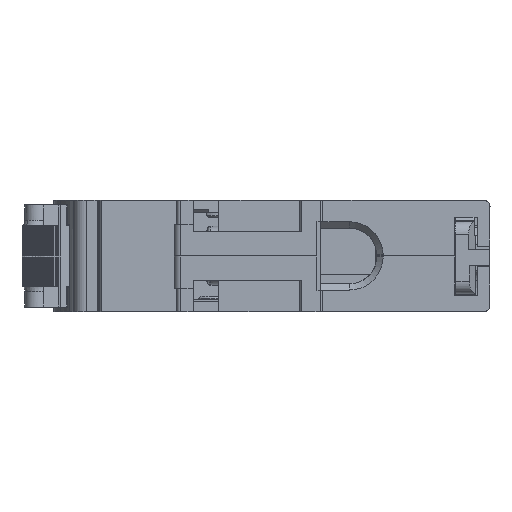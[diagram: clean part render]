
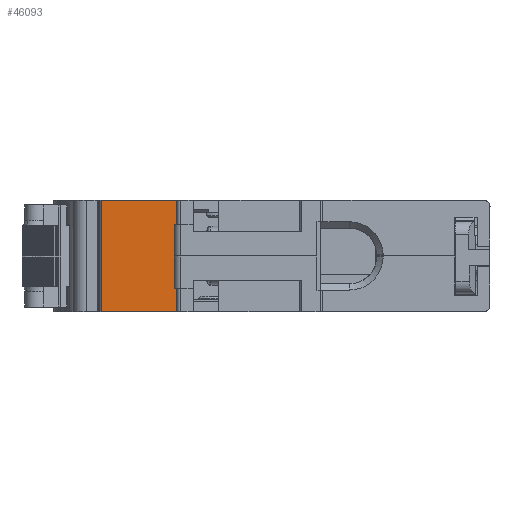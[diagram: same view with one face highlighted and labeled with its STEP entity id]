
A CAD part, left-side view. The second image highlights one B-rep face of the part: STEP entity #46093.
In plain terms, the highlighted planar face has unit normal (-1, 0, 0) as drawn and (1, 0, 0) by its records, which use the part's own axes.
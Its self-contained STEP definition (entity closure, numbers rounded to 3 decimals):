
#362 = VERTEX_POINT ( 'NONE', #93049 ) ;
#680 = EDGE_LOOP ( 'NONE', ( #66087, #76927, #103014, #49757, #65224, #42584, #105873, #72615, #95885, #96469, #103208 ) ) ;
#3454 = CARTESIAN_POINT ( 'NONE',  ( -14.161, 46.789, 5.4 ) ) ;
#3581 = VECTOR ( 'NONE', #75891, 1000. ) ;
#4093 = VERTEX_POINT ( 'NONE', #90168 ) ;
#5193 = VECTOR ( 'NONE', #94271, 1000. ) ;
#8354 = CARTESIAN_POINT ( 'NONE',  ( -14.161, 58.87, 14.2 ) ) ;
#9135 = CARTESIAN_POINT ( 'NONE',  ( -14.161, 58.87, -3.4 ) ) ;
#9315 = LINE ( 'NONE', #10847, #16220 ) ;
#9963 = CARTESIAN_POINT ( 'NONE',  ( -14.161, 22.5, 0.4 ) ) ;
#10330 = CARTESIAN_POINT ( 'NONE',  ( -14.161, 46.966, 5.3 ) ) ;
#10847 = CARTESIAN_POINT ( 'NONE',  ( -14.161, 20.464, 5.4 ) ) ;
#12418 = LINE ( 'NONE', #10330, #69834 ) ;
#14457 = DIRECTION ( 'NONE',  ( 0., -0.016, 1. ) ) ;
#14894 = CARTESIAN_POINT ( 'NONE',  ( -14.161, 22.5, 10.057 ) ) ;
#15280 = CARTESIAN_POINT ( 'NONE',  ( -14.161, 46.767, 10.057 ) ) ;
#15682 = VECTOR ( 'NONE', #36309, 1000. ) ;
#15996 = CARTESIAN_POINT ( 'NONE',  ( -14.161, 46.767, 5.3 ) ) ;
#16220 = VECTOR ( 'NONE', #82213, 1000. ) ;
#18587 = LINE ( 'NONE', #68248, #3581 ) ;
#19372 = CARTESIAN_POINT ( 'NONE',  ( -14.161, 47.016, 5.3 ) ) ;
#21403 = DIRECTION ( 'NONE',  ( 0., 1., 0. ) ) ;
#24077 = AXIS2_PLACEMENT_3D ( 'NONE', #62470, #27387, #86946 ) ;
#26036 = DIRECTION ( 'NONE',  ( 0., 0., -1. ) ) ;
#27073 = VERTEX_POINT ( 'NONE', #35820 ) ;
#27387 = DIRECTION ( 'NONE',  ( 1., 0., 0. ) ) ;
#27416 = DIRECTION ( 'NONE',  ( 0., 0., -1. ) ) ;
#29193 = CARTESIAN_POINT ( 'NONE',  ( -14.161, 47.366, 0.4 ) ) ;
#35820 = CARTESIAN_POINT ( 'NONE',  ( -14.161, 46.767, 6.83 ) ) ;
#36179 = VECTOR ( 'NONE', #105179, 1000. ) ;
#36309 = DIRECTION ( 'NONE',  ( 0., -1., 0. ) ) ;
#37025 = EDGE_CURVE ( 'NONE', #91282, #49216, #67109, .T. ) ;
#37339 = LINE ( 'NONE', #19372, #94770 ) ;
#38552 = FACE_OUTER_BOUND ( 'NONE', #680, .T. ) ;
#39387 = EDGE_CURVE ( 'NONE', #91282, #64827, #9315, .T. ) ;
#41952 = EDGE_CURVE ( 'NONE', #49216, #362, #70356, .T. ) ;
#42156 = EDGE_CURVE ( 'NONE', #64827, #27073, #89451, .T. ) ;
#42584 = ORIENTED_EDGE ( 'NONE', *, *, #99750, .F. ) ;
#42814 = EDGE_CURVE ( 'NONE', #80748, #69523, #96761, .T. ) ;
#42916 = VECTOR ( 'NONE', #14457, 1000. ) ;
#43859 = VECTOR ( 'NONE', #26036, 1000. ) ;
#44493 = VERTEX_POINT ( 'NONE', #15280 ) ;
#45131 = EDGE_CURVE ( 'NONE', #89200, #80748, #48371, .T. ) ;
#46093 = ADVANCED_FACE ( 'NONE', ( #38552 ), #105580, .T. ) ;
#48371 = LINE ( 'NONE', #61330, #36179 ) ;
#49216 = VERTEX_POINT ( 'NONE', #29193 ) ;
#49757 = ORIENTED_EDGE ( 'NONE', *, *, #42814, .T. ) ;
#53520 = CARTESIAN_POINT ( 'NONE',  ( -14.161, 47.016, 10.057 ) ) ;
#61130 = CARTESIAN_POINT ( 'NONE',  ( -14.161, 47.366, 5.3 ) ) ;
#61330 = CARTESIAN_POINT ( 'NONE',  ( -14.161, 58.87, 5.3 ) ) ;
#62470 = CARTESIAN_POINT ( 'NONE',  ( -14.161, 72.5, 5.3 ) ) ;
#63942 = LINE ( 'NONE', #15996, #5193 ) ;
#64827 = VERTEX_POINT ( 'NONE', #91397 ) ;
#65224 = ORIENTED_EDGE ( 'NONE', *, *, #69318, .T. ) ;
#66087 = ORIENTED_EDGE ( 'NONE', *, *, #103025, .T. ) ;
#67109 = LINE ( 'NONE', #61130, #43859 ) ;
#68248 = CARTESIAN_POINT ( 'NONE',  ( -14.161, 41.647, -3.4 ) ) ;
#69318 = EDGE_CURVE ( 'NONE', #69523, #90280, #37339, .T. ) ;
#69523 = VERTEX_POINT ( 'NONE', #94129 ) ;
#69834 = VECTOR ( 'NONE', #97013, 1000. ) ;
#70356 = LINE ( 'NONE', #9963, #15682 ) ;
#72615 = ORIENTED_EDGE ( 'NONE', *, *, #42156, .F. ) ;
#74639 = CARTESIAN_POINT ( 'NONE',  ( -14.161, 72.5, 14.2 ) ) ;
#75891 = DIRECTION ( 'NONE',  ( 0., 1., 0. ) ) ;
#76927 = ORIENTED_EDGE ( 'NONE', *, *, #83077, .T. ) ;
#80748 = VERTEX_POINT ( 'NONE', #8354 ) ;
#82213 = DIRECTION ( 'NONE',  ( 0., -1., 0. ) ) ;
#83077 = EDGE_CURVE ( 'NONE', #4093, #89200, #18587, .T. ) ;
#83425 = DIRECTION ( 'NONE',  ( 0., -1., 0. ) ) ;
#86946 = DIRECTION ( 'NONE',  ( 0., 0., -1. ) ) ;
#89200 = VERTEX_POINT ( 'NONE', #9135 ) ;
#89451 = LINE ( 'NONE', #3454, #42916 ) ;
#90168 = CARTESIAN_POINT ( 'NONE',  ( -14.161, 46.966, -3.4 ) ) ;
#90280 = VERTEX_POINT ( 'NONE', #53520 ) ;
#91282 = VERTEX_POINT ( 'NONE', #95335 ) ;
#91397 = CARTESIAN_POINT ( 'NONE',  ( -14.161, 46.789, 5.4 ) ) ;
#93049 = CARTESIAN_POINT ( 'NONE',  ( -14.161, 46.966, 0.4 ) ) ;
#94129 = CARTESIAN_POINT ( 'NONE',  ( -14.161, 47.016, 14.2 ) ) ;
#94271 = DIRECTION ( 'NONE',  ( 0., 0., -1. ) ) ;
#94770 = VECTOR ( 'NONE', #27416, 1000. ) ;
#95335 = CARTESIAN_POINT ( 'NONE',  ( -14.161, 47.366, 5.4 ) ) ;
#95885 = ORIENTED_EDGE ( 'NONE', *, *, #39387, .F. ) ;
#96469 = ORIENTED_EDGE ( 'NONE', *, *, #37025, .T. ) ;
#96761 = LINE ( 'NONE', #74639, #107610 ) ;
#97013 = DIRECTION ( 'NONE',  ( 0., 0., -1. ) ) ;
#97581 = EDGE_CURVE ( 'NONE', #44493, #27073, #63942, .T. ) ;
#99750 = EDGE_CURVE ( 'NONE', #44493, #90280, #105985, .T. ) ;
#103014 = ORIENTED_EDGE ( 'NONE', *, *, #45131, .T. ) ;
#103025 = EDGE_CURVE ( 'NONE', #362, #4093, #12418, .T. ) ;
#103208 = ORIENTED_EDGE ( 'NONE', *, *, #41952, .T. ) ;
#105179 = DIRECTION ( 'NONE',  ( 0., 0., 1. ) ) ;
#105580 = PLANE ( 'NONE',  #24077 ) ;
#105873 = ORIENTED_EDGE ( 'NONE', *, *, #97581, .T. ) ;
#105985 = LINE ( 'NONE', #14894, #107389 ) ;
#107389 = VECTOR ( 'NONE', #21403, 1000. ) ;
#107610 = VECTOR ( 'NONE', #83425, 1000. ) ;
